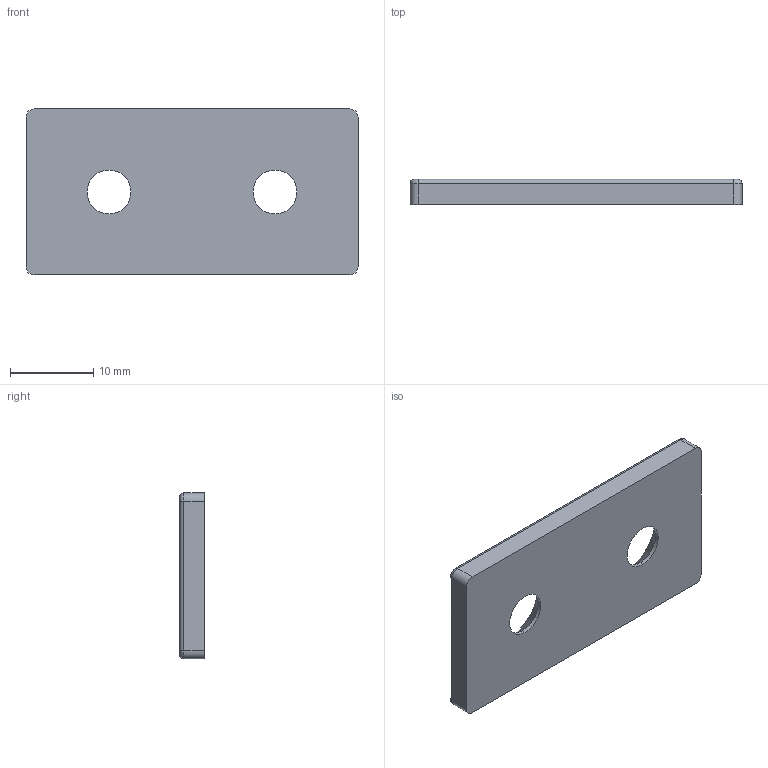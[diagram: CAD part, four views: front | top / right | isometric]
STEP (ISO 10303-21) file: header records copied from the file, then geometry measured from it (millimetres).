
FILE_DESCRIPTION (( 'STEP AP203' ), '1' );
FILE_NAME ('99900543_Lasche 20x40 t=3, 2x Am 5.step', '2022-10-13T12:16:02', ( '' ), ( '' ), 'SwSTEP 2.0', 'SolidWorks 2021', '' );
FILE_SCHEMA (( 'CONFIG_CONTROL_DESIGN' ));
Length unit declared in the file: millimetre
Products named in the file (1): 99900543_Lasche 20x40 t=3, 2x Am 5
Bounding box: 40 x 3 x 20 mm (x, y, z)
Volume: 2115.7 mm3; surface area: 1906.5 mm2
Topology: 1 solids, 1 shells, 26 faces, 60 edges, 36 vertices
Faces by surface type: cylinder 12, plane 6, cone 4, torus 4
Entity records: 825 total; most frequent: DIRECTION 146, CARTESIAN_POINT 123, ORIENTED_EDGE 120, EDGE_CURVE 60, AXIS2_PLACEMENT_3D 59, VERTEX_POINT 36, CIRCLE 32, EDGE_LOOP 30
